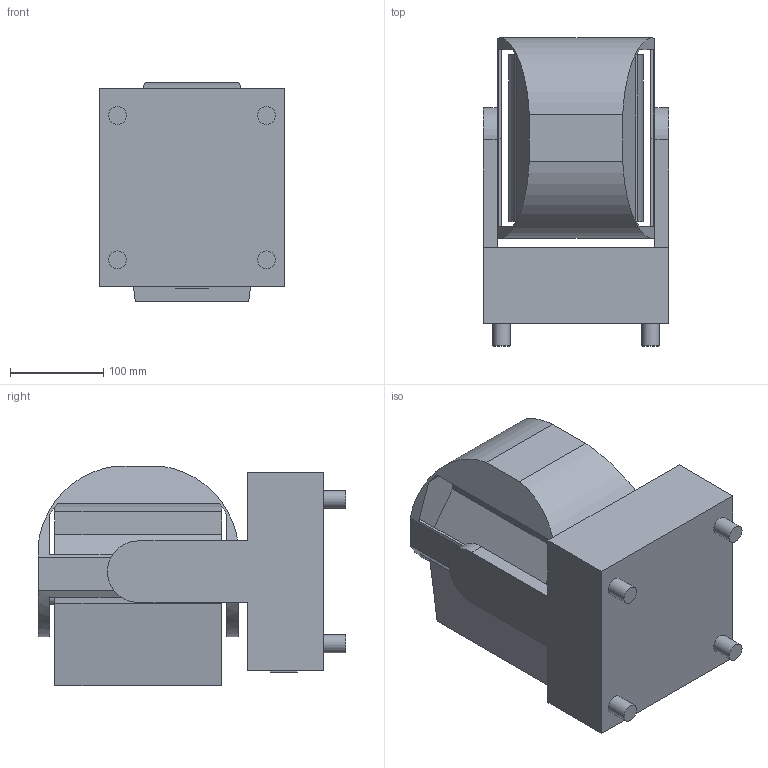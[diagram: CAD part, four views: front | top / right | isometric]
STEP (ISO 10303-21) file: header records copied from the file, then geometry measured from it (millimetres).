
FILE_DESCRIPTION(/* description */ (''),/* implementation_level */ '2;1');
FILE_NAME(/* name */ 'COLORado PXL Curve 1_90.step',/* time_stamp */ '2026-02-20T11:29:28-05:00',/* author */ (''),/* organization */ (''),/* preprocessor_version */ 'ST-DEVELOPER v20.1',/* originating_system */ 'Autodesk Translation Framework v14.24.0.0',/* authorisation */ '');
FILE_SCHEMA (('AUTOMOTIVE_DESIGN { 1 0 10303 214 3 1 1 }'));
Length unit declared in the file: millimetre
Products named in the file (5): ROIP-200C-01-00_ASM; head; tilt (1); Part10; Base
Assembly tree (4 placements, depth 3):
  ROIP-200C-01-00_ASM
    head
      tilt (1)
      Part10
    Base
Bounding box: 199 x 330.5 x 235.61 mm (x, y, z)
Volume: 8974860.8 mm3; surface area: 543826.6 mm2
Topology: 3 solids, 3 shells, 73 faces, 180 edges, 120 vertices
Faces by surface type: plane 54, cylinder 19
Full cylindrical faces by diameter (mm): 14 x2, 19.18 x4, 26.5 x2
Entity records: 2312 total; most frequent: DIRECTION 386, CARTESIAN_POINT 382, ORIENTED_EDGE 360, EDGE_CURVE 180, LINE 138, VECTOR 138, AXIS2_PLACEMENT_3D 124, VERTEX_POINT 120
